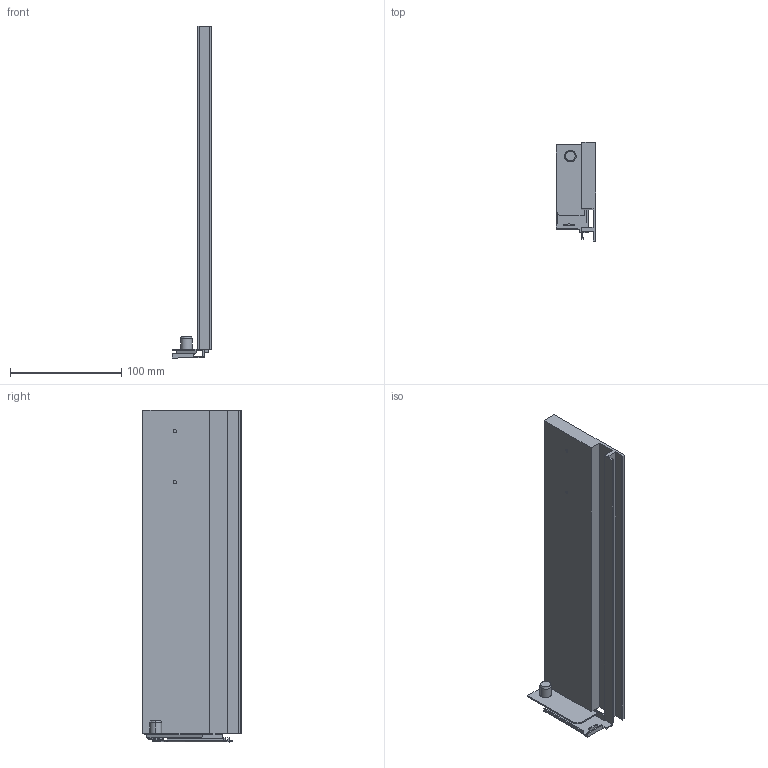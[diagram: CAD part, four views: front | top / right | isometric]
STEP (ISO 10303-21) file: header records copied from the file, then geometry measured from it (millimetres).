
FILE_DESCRIPTION (( 'STEP AP214' ), '1' );
FILE_NAME ('Vionaro_Alu-Zarge_H89_NL300_RE.STEP', '2014-08-14T10:09:23', ( '' ), ( '' ), 'SwSTEP 2.0', 'SolidWorks 2013', '' );
FILE_SCHEMA (( 'AUTOMOTIVE_DESIGN' ));
Length unit declared in the file: millimetre
Products named in the file (1): Vionaro_Alu-Zarge_H89_NL300_RE
Bounding box: 35.6 x 89 x 297.9 mm (x, y, z)
Volume: 266992.5 mm3; surface area: 79728.7 mm2
Topology: 1 solids, 1 shells, 98 faces, 266 edges, 174 vertices
Faces by surface type: plane 80, cylinder 14, cone 4
Entity records: 3082 total; most frequent: CARTESIAN_POINT 545, ORIENTED_EDGE 532, DIRECTION 496, EDGE_CURVE 266, VECTOR 230, LINE 230, VERTEX_POINT 174, AXIS2_PLACEMENT_3D 133
